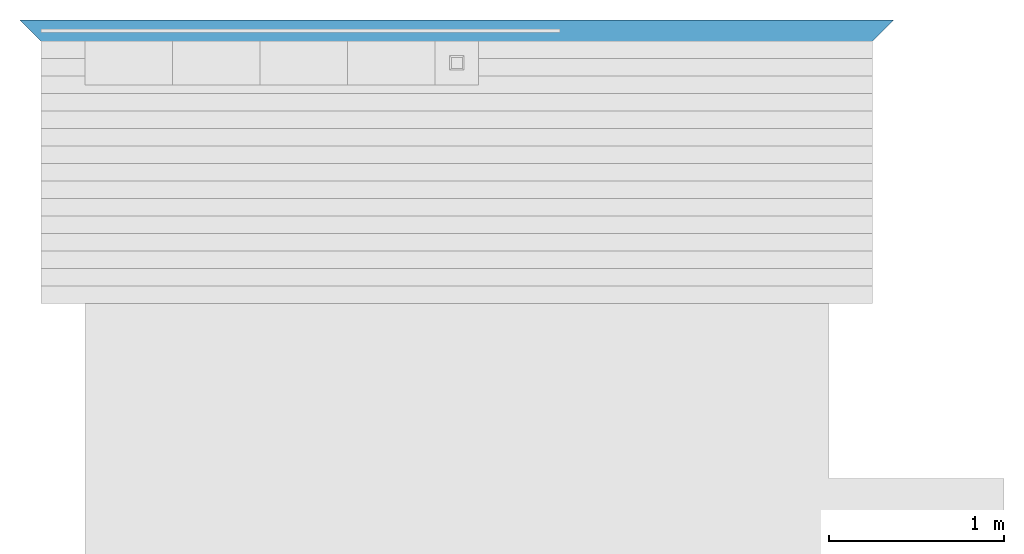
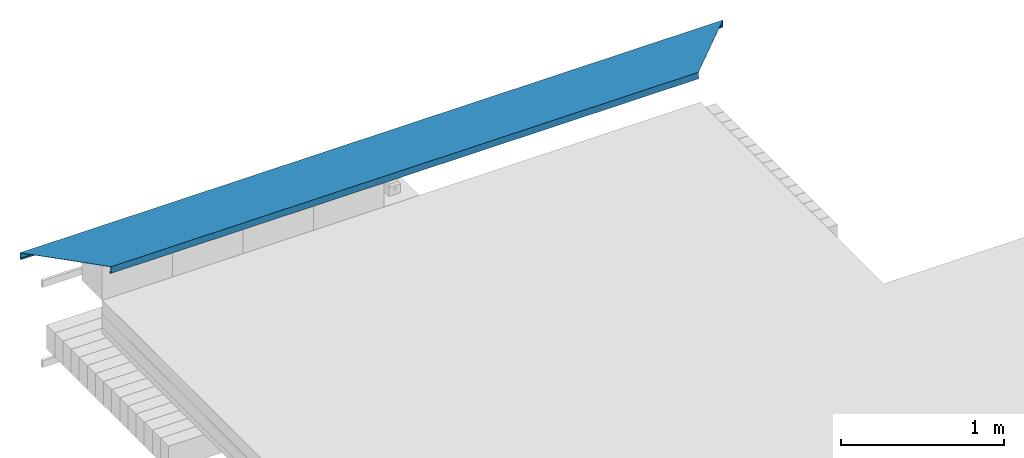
# One storey, part 2 of 2: 1 beam.
"""IFC4 building model written with IfcOpenShell, lengths in centimetres."""

import ifcopenshell
import ifcopenshell.guid

model = None  # the IFC model being written
_history = None  # IfcOwnerHistory: only IFC2X3 demands one
_inside = {}  # id of a spatial element -> (the spatial element, [elements in it])
_under = {}  # id of a project, library or spatial element -> (it, [spatial elements below it])
_declared = {}  # id of a project -> (the project, [libraries it declares])
_typed = {}  # id of a type object -> (the type object, [elements of that type])
_made_of = {}  # id of a material, layer set ... -> (it, [elements and type objects made of it])


def new_model(schema):
    """Start an empty IFC model of exactly this schema.

    Asked for "IFC4X3", IfcOpenShell would pick the latest addendum, in which some entities
    have other attributes; the version numbers below select the first issue.
    IFC2X3 requires an IfcOwnerHistory on every rooted entity: one is made here for all.
    """
    global model, _history
    if schema == "IFC4X3":
        model = ifcopenshell.file(schema_version=(4, 3, 0, 0))
    else:
        model = ifcopenshell.file(schema=schema)
    _inside.clear()
    _under.clear()
    _declared.clear()
    _typed.clear()
    _made_of.clear()
    _history = None
    if model.schema == "IFC2X3":
        org = make("IfcOrganization", Name="unknown")
        user = make(
            "IfcPersonAndOrganization",
            ThePerson=make("IfcPerson", FamilyName="unknown"),
            TheOrganization=org,
        )
        app = make(
            "IfcApplication",
            ApplicationDeveloper=org,
            Version="unknown",
            ApplicationFullName="unknown",
            ApplicationIdentifier="unknown",
        )
        _history = make(
            "IfcOwnerHistory",
            OwningUser=user,
            OwningApplication=app,
            ChangeAction="ADDED",
            CreationDate=0,
        )
    return model


def make(cls, **values):
    """One entity of the class cls with the attributes given. An attribute that is None is left unset."""
    return model.create_entity(
        cls, **{name: value for name, value in values.items() if value is not None}
    )


def entity(cls, *values):
    """Any entity or typed value of the class cls, its attributes in the order of the schema. None: left unset."""
    e = model.create_entity(cls)
    for i, value in enumerate(values):
        if value is not None:
            e[i] = value
    return e


def rooted(cls, **values):
    """An entity with a GlobalId (a new one), such as an element, a storey or a relation."""
    return make(cls, GlobalId=ifcopenshell.guid.new(), OwnerHistory=_history, **values)


def si_unit(unit_type, name, prefix=None):
    """IfcSIUnit, for example si_unit("LENGTHUNIT", "METRE", prefix="MILLI")."""
    return make("IfcSIUnit", UnitType=unit_type, Prefix=prefix, Name=name)


def converted_unit(unit_type, name, factor, base, dimensions=None, offset=None):
    """IfcConversionBasedUnit, such as the inch: factor (a typed value) times the base unit."""
    return make(
        "IfcConversionBasedUnit"
        if offset is None
        else "IfcConversionBasedUnitWithOffset",
        ConversionOffset=offset,
        Dimensions=None
        if dimensions is None
        else entity("IfcDimensionalExponents", *dimensions),
        UnitType=unit_type,
        Name=name,
        ConversionFactor=make(
            "IfcMeasureWithUnit", ValueComponent=factor, UnitComponent=base
        ),
    )


def assignment(units):
    """IfcUnitAssignment: the units of a project."""
    return None if units is None else make("IfcUnitAssignment", Units=units)


def point(xyz):
    """IfcCartesianPoint."""
    return None if xyz is None else make("IfcCartesianPoint", Coordinates=xyz)


def direction(xyz):
    """IfcDirection."""
    return None if xyz is None else make("IfcDirection", DirectionRatios=xyz)


def frame(location, z_axis=None, x_axis=None):
    """IfcAxis2Placement3D, a coordinate frame: its origin and axes. An axis left out is left unset."""
    return make(
        "IfcAxis2Placement3D",
        Location=point(location),
        Axis=direction(z_axis),
        RefDirection=direction(x_axis),
    )


def origin():
    """The frame at (0, 0, 0) with its axes left unset."""
    return frame((0.0, 0.0, 0.0))


def place(relative_to, where):
    """IfcLocalPlacement: puts the frame where relative to a parent placement (None: the world)."""
    return make(
        "IfcLocalPlacement", PlacementRelTo=relative_to, RelativePlacement=where
    )


def context(
    kind, dimensions, precision=None, world=None, true_north=None, identifier=None
):
    """IfcGeometricRepresentationContext, for example the 3D "Model" context."""
    return make(
        "IfcGeometricRepresentationContext",
        ContextIdentifier=identifier,
        ContextType=kind,
        CoordinateSpaceDimension=dimensions,
        Precision=precision,
        WorldCoordinateSystem=world,
        TrueNorth=true_north,
    )


def subcontext(parent, identifier, kind, view, scale=None):
    """IfcGeometricRepresentationSubContext, for example "Body" below "Model"."""
    return make(
        "IfcGeometricRepresentationSubContext",
        ContextIdentifier=identifier,
        ContextType=kind,
        ParentContext=parent,
        TargetScale=scale,
        TargetView=view,
    )


def project(units=None, contexts=None):
    """IfcProject with its units and contexts."""
    return rooted(
        "IfcProject",
        Name="project",
        RepresentationContexts=contexts,
        UnitsInContext=assignment(units),
    )


def spatial(cls, under=None, at=None, **own):
    """A site, building, storey or space (cls), placed at a placement, below another one or the project."""
    s = rooted(cls, ObjectPlacement=at, **own)
    if under is not None:
        _under.setdefault(under.id(), (under, []))[1].append(s)
    return s


def point_list(points):
    """IfcCartesianPointList2D or 3D."""
    cls = (
        "IfcCartesianPointList2D" if len(points[0]) == 2 else "IfcCartesianPointList3D"
    )
    return make(cls, CoordList=points)


def polygons(points, faces, closed=None, point_numbers=None):
    """IfcPolygonalFaceSet: a face is its outer loop, then its inner loops; points numbered from 1."""
    made = []
    for loops in faces:
        if len(loops) == 1:
            made.append(make("IfcIndexedPolygonalFace", CoordIndex=loops[0]))
        else:
            made.append(
                make(
                    "IfcIndexedPolygonalFaceWithVoids",
                    CoordIndex=loops[0],
                    InnerCoordIndices=loops[1:],
                )
            )
    return make(
        "IfcPolygonalFaceSet",
        Coordinates=point_list(points),
        Closed=closed,
        Faces=made,
        PnIndex=point_numbers,
    )


def shape(context_of_items, identifier, shape_type, items):
    """IfcShapeRepresentation: the items that make up one representation, for example the "Body"."""
    return make(
        "IfcShapeRepresentation",
        ContextOfItems=context_of_items,
        RepresentationIdentifier=identifier,
        RepresentationType=shape_type,
        Items=items,
    )


def source(mapping_origin, context_of_items, identifier, shape_type, items):
    """IfcRepresentationMap: a shape defined once, which mapped items show again and again."""
    return make(
        "IfcRepresentationMap",
        MappingOrigin=mapping_origin,
        MappedRepresentation=shape(context_of_items, identifier, shape_type, items),
    )


def transform(
    local_origin,
    x_axis=None,
    y_axis=None,
    z_axis=None,
    scale=None,
    scale2=None,
    scale3=None,
    uniform=True,
):
    """IfcCartesianTransformationOperator3D, or its non-uniform kind. x_axis, y_axis, z_axis: its Axis1, 2, 3."""
    if uniform:
        return make(
            "IfcCartesianTransformationOperator3D",
            Axis1=direction(x_axis),
            Axis2=direction(y_axis),
            LocalOrigin=point(local_origin),
            Scale=scale,
            Axis3=direction(z_axis),
        )
    return make(
        "IfcCartesianTransformationOperator3DnonUniform",
        Axis1=direction(x_axis),
        Axis2=direction(y_axis),
        LocalOrigin=point(local_origin),
        Scale=scale,
        Axis3=direction(z_axis),
        Scale2=scale2,
        Scale3=scale3,
    )


def mapped(mapping_source, mapping_target):
    """IfcMappedItem: shows the shape of a source again, moved by a transform."""
    return make(
        "IfcMappedItem", MappingSource=mapping_source, MappingTarget=mapping_target
    )


def material(Name=None, Category=None):
    """IfcMaterial."""
    return make("IfcMaterial", Name=Name, Category=Category)


def made_of(thing, what):
    """Note that an element or type object is made of a material, layer set ...; save() writes the relation."""
    if what is not None:
        _made_of.setdefault(what.id(), (what, []))[1].append(thing)
    return thing


def type_object(cls, material=None, **own):
    """A type object (cls), such as IfcWallType, which elements share."""
    return made_of(rooted(cls, **own), material)


def type_shapes(of_type, sources):
    """Give a type object the sources (RepresentationMaps) that its elements show as mapped items."""
    of_type.RepresentationMaps = sources


def element(
    cls,
    number,
    at=None,
    inside=None,
    cuts=None,
    type_object=None,
    material=None,
    context=None,
    identifier="Body",
    shape_type=None,
    held_by="IfcProductDefinitionShape",
    body=None,
    shapes=None,
    **own,
):
    """One element of the class cls, such as IfcWall. Its Tag is "e" and its number.

    at: its placement. inside: the storey or other place that contains it. cuts: it is an
    opening in that element (IfcRelVoidsElement). A single representation is given by context,
    identifier, shape_type and body (its items); several are given by shapes. held_by: the class
    of the entity that holds the representations. save() writes the other relations.
    """
    e = rooted(cls, Tag="e%d" % number, ObjectPlacement=at, **own)
    if body is not None:
        shapes = [shape(context, identifier, shape_type, body)]
    if shapes is not None:
        e.Representation = make(held_by, Representations=shapes)
    if inside is not None:
        _inside.setdefault(inside.id(), (inside, []))[1].append(e)
    if cuts is not None:
        rooted(
            "IfcRelVoidsElement", RelatingBuildingElement=cuts, RelatedOpeningElement=e
        )
    if type_object is not None:
        _typed.setdefault(type_object.id(), (type_object, []))[1].append(e)
    return made_of(e, material)


def aggregate(whole, parts):
    """IfcRelAggregates: a whole, such as a stair, and the parts it consists of."""
    return rooted("IfcRelAggregates", RelatingObject=whole, RelatedObjects=parts)


def save(model, path):
    """Write the relations noted so far, then the file.

    IfcRelAggregates (storeys below a building ...), IfcRelContainedInSpatialStructure (elements
    in a storey), IfcRelDefinesByType, IfcRelAssociatesMaterial and IfcRelDeclares: one each for
    every whole, place, type object, material and project.
    """
    for whole, parts in _under.values():
        aggregate(whole, parts)
    for where, things in _inside.values():
        rooted(
            "IfcRelContainedInSpatialStructure",
            RelatedElements=things,
            RelatingStructure=where,
        )
    for kind, things in _typed.values():
        rooted("IfcRelDefinesByType", RelatedObjects=things, RelatingType=kind)
    for what, things in _made_of.values():
        rooted("IfcRelAssociatesMaterial", RelatedObjects=things, RelatingMaterial=what)
    for by, libraries in _declared.values():
        rooted("IfcRelDeclares", RelatingContext=by, RelatedDefinitions=libraries)
    model.write(path)


model = new_model("IFC4")

# Units and contexts
model_context = context("Model", 3, precision=0.001, world=origin(), true_north=direction((0.0, 1.0)))
body_context = subcontext(model_context, "Body", "Model", "MODEL_VIEW")
ifc_project = project(units=[si_unit("LENGTHUNIT", "METRE", prefix="CENTI"), si_unit("AREAUNIT", "SQUARE_METRE"), si_unit("VOLUMEUNIT", "CUBIC_METRE"), converted_unit("PLANEANGLEUNIT", "DEGREE", entity("IfcPlaneAngleMeasure", 0.017453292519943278), si_unit("PLANEANGLEUNIT", "RADIAN"), dimensions=[0, 0, 0, 0, 0, 0, 0])], contexts=[model_context])

# Site, building, storey
site_placement = place(None, origin())
site = spatial("IfcSite", under=ifc_project, at=site_placement, Name="Default", CompositionType="ELEMENT")
building_placement = place(site_placement, origin())
building = spatial("IfcBuilding", under=site, at=building_placement, CompositionType="ELEMENT")
storey_placement = place(building_placement, frame((0.0, 0.0, 269.29999999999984)))
storey = spatial("IfcBuildingStorey", under=building, at=storey_placement, Name="L01__ABOVE Slab", CompositionType="ELEMENT", Elevation=269.29999999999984)

# Beam
ifc_material = material(Name="_SILL__Sill__Metal", Category="Miscellaneous")
beam_type = type_object("IfcBeamType", Name="Structural Framing : wll__PARAPET CAP__Metal__sf : Wall Coping w/ H 50mm Nose, Stamped AL Profile", PredefinedType="BEAM", material=ifc_material)
shared_shape = source(origin(), body_context, "Body", "Tessellation", [
    polygons([(3101.625694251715, 2600.0164159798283, 316.69999999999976), (3599.4256942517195, 2600.016415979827, 316.69999999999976), (3599.4256942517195, 2600.016415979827, 315.69999999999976), (3101.625694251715, 2600.0164159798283, 315.69999999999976), (3599.825694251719, 2600.4164159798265, 315.69999999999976), (3101.2256942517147, 2600.416415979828, 315.69999999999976), (3599.825694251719, 2600.4164159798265, 320.2999999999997), (3101.2256942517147, 2600.416415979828, 320.2999999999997), (3559.2256942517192, 2559.8164159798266, 320.2999999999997), (3141.825694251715, 2559.816415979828, 320.2999999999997), (3559.2256942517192, 2559.8164159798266, 315.69999999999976), (3141.825694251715, 2559.816415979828, 315.69999999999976), (3559.6256942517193, 2560.2164159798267, 315.69999999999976), (3141.425694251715, 2560.216415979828, 315.69999999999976), (3559.6256942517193, 2560.2164159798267, 316.69999999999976), (3141.425694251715, 2560.216415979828, 316.69999999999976), (3559.825694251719, 2560.4164159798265, 316.69999999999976), (3141.225694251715, 2560.416415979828, 316.69999999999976), (3559.825694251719, 2560.4164159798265, 315.4999999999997), (3141.225694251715, 2560.416415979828, 315.4999999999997), (3559.025694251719, 2559.6164159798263, 315.4999999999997), (3142.025694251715, 2559.6164159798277, 315.4999999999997), (3559.025694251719, 2559.6164159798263, 320.4999999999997), (3142.025694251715, 2559.6164159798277, 320.4999999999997), (3600.025694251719, 2600.616415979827, 320.4999999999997), (3101.025694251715, 2600.6164159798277, 320.4999999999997), (3600.025694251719, 2600.616415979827, 315.4999999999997), (3101.025694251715, 2600.6164159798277, 315.4999999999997), (3599.2256942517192, 2599.8164159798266, 315.4999999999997), (3101.8256942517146, 2599.816415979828, 315.4999999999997), (3599.2256942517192, 2599.8164159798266, 316.69999999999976), (3101.8256942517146, 2599.816415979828, 316.69999999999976)], [[[1, 2, 3, 4]], [[4, 3, 5, 6]], [[6, 5, 7, 8]], [[8, 7, 9, 10]], [[10, 9, 11, 12]], [[12, 11, 13, 14]], [[14, 13, 15, 16]], [[16, 15, 17, 18]], [[18, 17, 19, 20]], [[20, 19, 21, 22]], [[22, 21, 23, 24]], [[24, 23, 25, 26]], [[26, 25, 27, 28]], [[28, 27, 29, 30]], [[30, 29, 31, 32]], [[2, 1, 32, 31]], [[2, 31, 29, 27, 25, 23, 21, 19, 17, 15, 13, 11, 9, 7, 5, 3]], [[1, 4, 6, 8, 10, 12, 14, 16, 18, 20, 22, 24, 26, 28, 30, 32]]], closed=True),
])
type_shapes(beam_type, [shared_shape])
beam_placement = place(storey_placement, frame((0.0, 0.0, -269.29999999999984)))
element("IfcBeam", 1, at=beam_placement, inside=storey, type_object=beam_type, material=ifc_material, Name="Structural Framing : wll__PARAPET CAP__Metal__sf : Wall Coping w/ H 50mm Nose, Stamped AL Profile", PredefinedType="BEAM", context=body_context, shape_type="MappedRepresentation", body=[
    mapped(shared_shape, transform((0.0, 0.0, 0.0), scale=1.0)),
])

save(model, "model.ifc")
